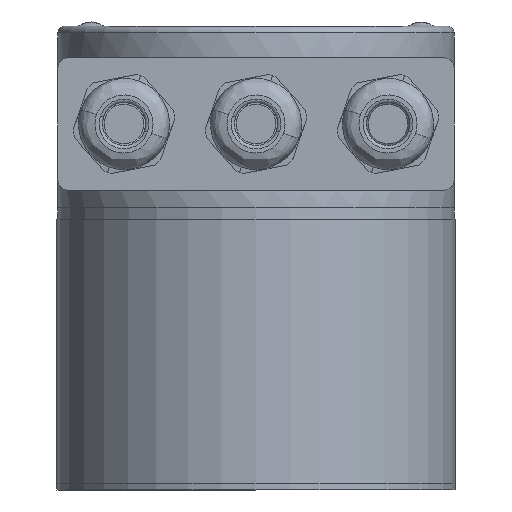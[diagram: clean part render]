
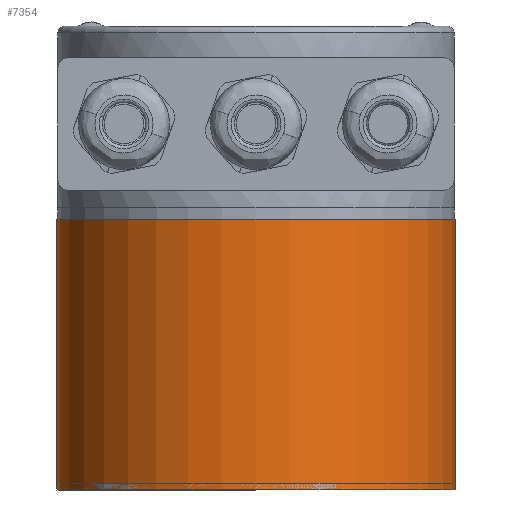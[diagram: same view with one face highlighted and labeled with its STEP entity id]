
A CAD part, front view. The second image highlights one B-rep face of the part: STEP entity #7354.
In plain terms, the highlighted cylindrical face has radius 30.15 mm (diameter 60.3 mm), a partial arc.
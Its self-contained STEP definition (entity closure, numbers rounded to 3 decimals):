
#3174 = CARTESIAN_POINT ( 'NONE',  ( 30.15, 0., 0. ) ) ;
#3254 = DIRECTION ( 'NONE',  ( 0., 0., 1. ) ) ;
#3255 = VECTOR ( 'NONE', #3254, 1000. ) ;
#3256 = CARTESIAN_POINT ( 'NONE',  ( 30.15, 0., -41. ) ) ;
#3257 = LINE ( 'NONE', #3256, #3255 ) ;
#3283 = CARTESIAN_POINT ( 'NONE',  ( -30.15, 0., -41. ) ) ;
#3323 = CARTESIAN_POINT ( 'NONE',  ( -30.15, 0., 0. ) ) ;
#3324 = DIRECTION ( 'NONE',  ( 0., 0., 1. ) ) ;
#3325 = VECTOR ( 'NONE', #3324, 1000. ) ;
#3326 = CARTESIAN_POINT ( 'NONE',  ( -30.15, 0., -41. ) ) ;
#3327 = LINE ( 'NONE', #3326, #3325 ) ;
#3328 = CARTESIAN_POINT ( 'NONE',  ( 30.15, 0., -41. ) ) ;
#3561 = DIRECTION ( 'NONE',  ( -1., 0., 0. ) ) ;
#3562 = DIRECTION ( 'NONE',  ( 0., 0., -1. ) ) ;
#3563 = CARTESIAN_POINT ( 'NONE',  ( 0., 0., -41. ) ) ;
#3564 = AXIS2_PLACEMENT_3D ( 'NONE', #3563, #3562, #3561 ) ;
#3565 = CIRCLE ( 'NONE', #3564, 30.15 ) ;
#3573 = DIRECTION ( 'NONE',  ( -1., 0., 0. ) ) ;
#3574 = DIRECTION ( 'NONE',  ( 0., 0., -1. ) ) ;
#3575 = AXIS2_PLACEMENT_3D ( 'NONE', #3582, #3574, #3573 ) ;
#3576 = CIRCLE ( 'NONE', #3575, 30.15 ) ;
#3582 = CARTESIAN_POINT ( 'NONE',  ( 0., 0., 0. ) ) ;
#3584 = FACE_OUTER_BOUND ( 'NONE', #7349, .T. ) ;
#3645 = DIRECTION ( 'NONE',  ( 1., 0., 0. ) ) ;
#3646 = DIRECTION ( 'NONE',  ( 0., 0., 1. ) ) ;
#3647 = CARTESIAN_POINT ( 'NONE',  ( 0., 0., -41. ) ) ;
#3648 = AXIS2_PLACEMENT_3D ( 'NONE', #3647, #3646, #3645 ) ;
#3649 = CYLINDRICAL_SURFACE ( 'NONE', #3648, 30.15 ) ;
#7158 = VERTEX_POINT ( 'NONE', #3174 ) ;
#7173 = EDGE_CURVE ( 'NONE', #7224, #7158, #3257, .T. ) ;
#7207 = VERTEX_POINT ( 'NONE', #3283 ) ;
#7224 = VERTEX_POINT ( 'NONE', #3328 ) ;
#7225 = EDGE_CURVE ( 'NONE', #7207, #7227, #3327, .T. ) ;
#7227 = VERTEX_POINT ( 'NONE', #3323 ) ;
#7332 = ORIENTED_EDGE ( 'NONE', *, *, #7173, .T. ) ;
#7334 = EDGE_CURVE ( 'NONE', #7158, #7227, #3576, .T. ) ;
#7336 = EDGE_CURVE ( 'NONE', #7224, #7207, #3565, .T. ) ;
#7343 = ORIENTED_EDGE ( 'NONE', *, *, #7334, .T. ) ;
#7349 = EDGE_LOOP ( 'NONE', ( #7360, #7376, #7332, #7343 ) ) ;
#7354 = ADVANCED_FACE ( 'NONE', ( #3584 ), #3649, .T. ) ;
#7360 = ORIENTED_EDGE ( 'NONE', *, *, #7225, .F. ) ;
#7376 = ORIENTED_EDGE ( 'NONE', *, *, #7336, .F. ) ;
